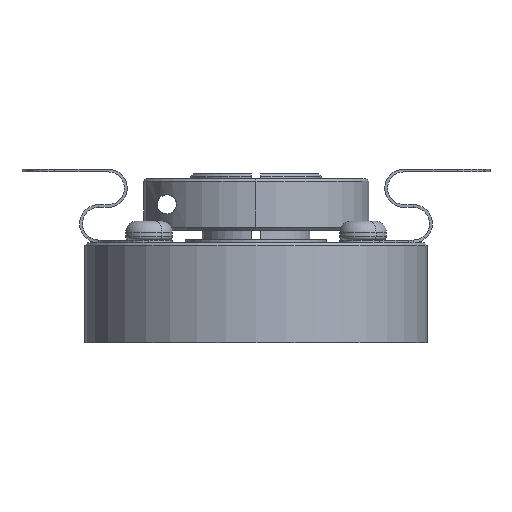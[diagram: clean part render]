
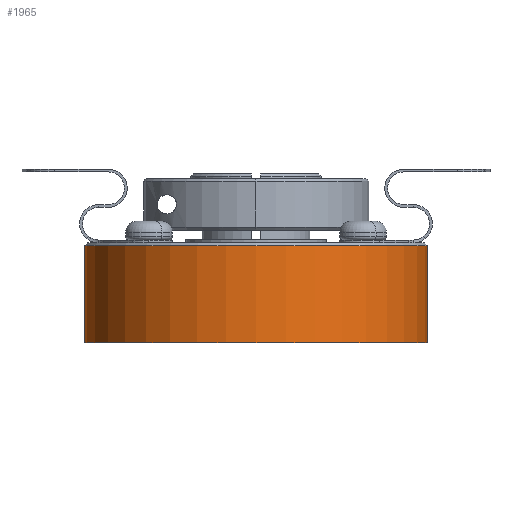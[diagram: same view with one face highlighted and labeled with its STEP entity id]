
A CAD part, front view. The second image highlights one B-rep face of the part: STEP entity #1965.
In plain terms, the highlighted cylindrical face has radius 18.25 mm (diameter 36.5 mm), a partial arc.
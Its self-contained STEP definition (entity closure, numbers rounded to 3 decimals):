
#252 = DIRECTION ( 'NONE',  ( 1., 0., 0. ) ) ;
#1814 = VERTEX_POINT ( 'NONE', #6241 ) ;
#1965 = ADVANCED_FACE ( 'NONE', ( #6878 ), #11101, .T. ) ;
#2579 = VECTOR ( 'NONE', #25325, 1000. ) ;
#2800 = CIRCLE ( 'NONE', #19958, 18.25 ) ;
#3935 = VERTEX_POINT ( 'NONE', #7963 ) ;
#4972 = CARTESIAN_POINT ( 'NONE',  ( 0., 0., 11.65 ) ) ;
#5807 = ORIENTED_EDGE ( 'NONE', *, *, #22667, .T. ) ;
#6241 = CARTESIAN_POINT ( 'NONE',  ( -18.25, 0., 1.3 ) ) ;
#6556 = ORIENTED_EDGE ( 'NONE', *, *, #6573, .F. ) ;
#6573 = EDGE_CURVE ( 'NONE', #1814, #22938, #9452, .T. ) ;
#6878 = FACE_OUTER_BOUND ( 'NONE', #23163, .T. ) ;
#7119 = CARTESIAN_POINT ( 'NONE',  ( 18.25, 0., 1.3 ) ) ;
#7963 = CARTESIAN_POINT ( 'NONE',  ( 18.25, 0., 11.65 ) ) ;
#8598 = CARTESIAN_POINT ( 'NONE',  ( -18.25, 0., 1000. ) ) ;
#8935 = CARTESIAN_POINT ( 'NONE',  ( -18.25, 0., 11.65 ) ) ;
#9452 = LINE ( 'NONE', #8598, #2579 ) ;
#9975 = AXIS2_PLACEMENT_3D ( 'NONE', #4972, #15829, #252 ) ;
#10018 = ORIENTED_EDGE ( 'NONE', *, *, #17403, .T. ) ;
#10996 = AXIS2_PLACEMENT_3D ( 'NONE', #11618, #26051, #21856 ) ;
#11101 = CYLINDRICAL_SURFACE ( 'NONE', #10996, 18.25 ) ;
#11618 = CARTESIAN_POINT ( 'NONE',  ( 0., 0., 1000. ) ) ;
#12816 = ORIENTED_EDGE ( 'NONE', *, *, #19177, .T. ) ;
#13797 = DIRECTION ( 'NONE',  ( 1., 0., 0. ) ) ;
#14025 = CIRCLE ( 'NONE', #9975, 18.25 ) ;
#15829 = DIRECTION ( 'NONE',  ( 0., 0., -1. ) ) ;
#17403 = EDGE_CURVE ( 'NONE', #1814, #18287, #2800, .T. ) ;
#18186 = CARTESIAN_POINT ( 'NONE',  ( 0., 0., 1.3 ) ) ;
#18287 = VERTEX_POINT ( 'NONE', #7119 ) ;
#18534 = CARTESIAN_POINT ( 'NONE',  ( 18.25, 0., 1000. ) ) ;
#19177 = EDGE_CURVE ( 'NONE', #18287, #3935, #26218, .T. ) ;
#19958 = AXIS2_PLACEMENT_3D ( 'NONE', #18186, #26294, #13797 ) ;
#21856 = DIRECTION ( 'NONE',  ( 1., 0., 0. ) ) ;
#22622 = VECTOR ( 'NONE', #22703, 1000. ) ;
#22667 = EDGE_CURVE ( 'NONE', #3935, #22938, #14025, .T. ) ;
#22703 = DIRECTION ( 'NONE',  ( 0., 0., 1. ) ) ;
#22938 = VERTEX_POINT ( 'NONE', #8935 ) ;
#23163 = EDGE_LOOP ( 'NONE', ( #6556, #10018, #12816, #5807 ) ) ;
#25325 = DIRECTION ( 'NONE',  ( 0., 0., 1. ) ) ;
#26051 = DIRECTION ( 'NONE',  ( 0., 0., 1. ) ) ;
#26218 = LINE ( 'NONE', #18534, #22622 ) ;
#26294 = DIRECTION ( 'NONE',  ( 0., 0., 1. ) ) ;
